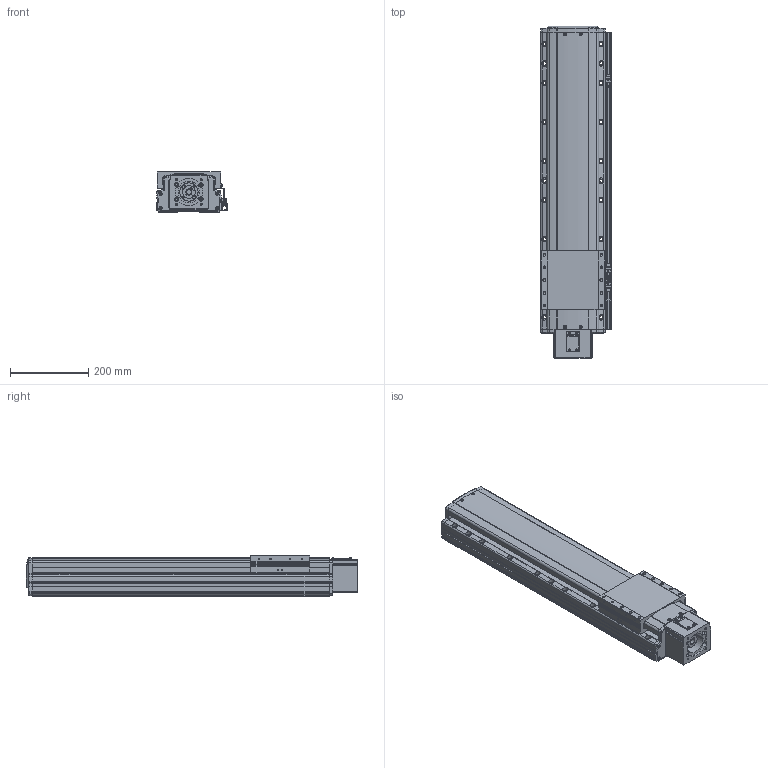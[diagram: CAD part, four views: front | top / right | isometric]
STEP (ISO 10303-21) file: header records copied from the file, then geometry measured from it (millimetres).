
FILE_DESCRIPTION(('STEP AP214'),'1');
FILE_NAME('Z:/Web/3D/PSA165/STP/PSA165-500 (3D)/PSA165ㅁㅁ-500S+3SR.stp','2014-06-23T11:19:32',(' '),(' '),'Spatial InterOp 3D',' ',' ');
FILE_SCHEMA(('automotive_design'));
Length unit declared in the file: millimetre
Products named in the file (85): 스크루 : Round - M4.0 x 12.0; RRCV-PA160; BASE; 스크루 : Round - M4.0 x 10.0; RN15; Screw 20; SLIDE; FRCV; 스크루 : Socket - M6.0 x 25.0; MTHZ-SAN150-80A; SSFX-SAN65; CPLCV-SAN65; 스크루 : Round - M3.0 x 6.0; SDWA47C(2); SDWA47C(3-1); SDWA47C(3); SDWA47C(1); SDWA47C(4); SDWA47C(5); M3.0 x 6.0; SRL-16x17-360L; SGD-SAN150; EE-SX674; SBK-SX674-352; BHCS M4.0 x 10.0
Bounding box: 181 x 849.8 x 104 mm (x, y, z)
Volume: 11404015.9 mm3; surface area: 934389.7 mm2
Topology: 85 solids, 85 shells, 3465 faces, 9195 edges, 5941 vertices
Faces by surface type: plane 1739, cylinder 1220, cone 377, sphere 70, bspline 35, torus 24
Entity records: 141445 total; most frequent: CARTESIAN_POINT 24100, DIRECTION 19139, ORIENTED_EDGE 18094, EDGE_CURVE 9047, AXIS2_PLACEMENT_3D 6830, VERTEX_POINT 5941, LINE 5479, VECTOR 5479
